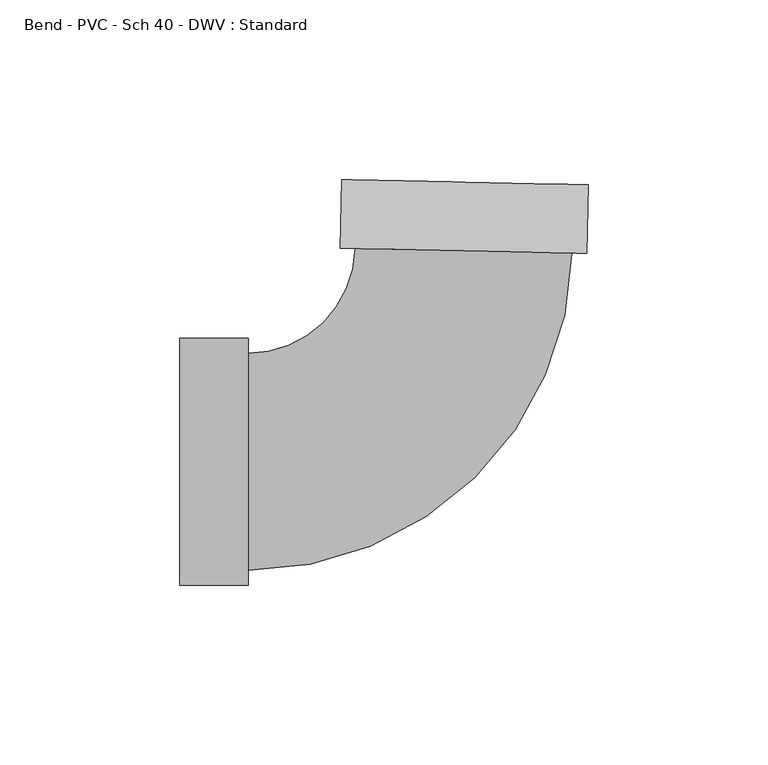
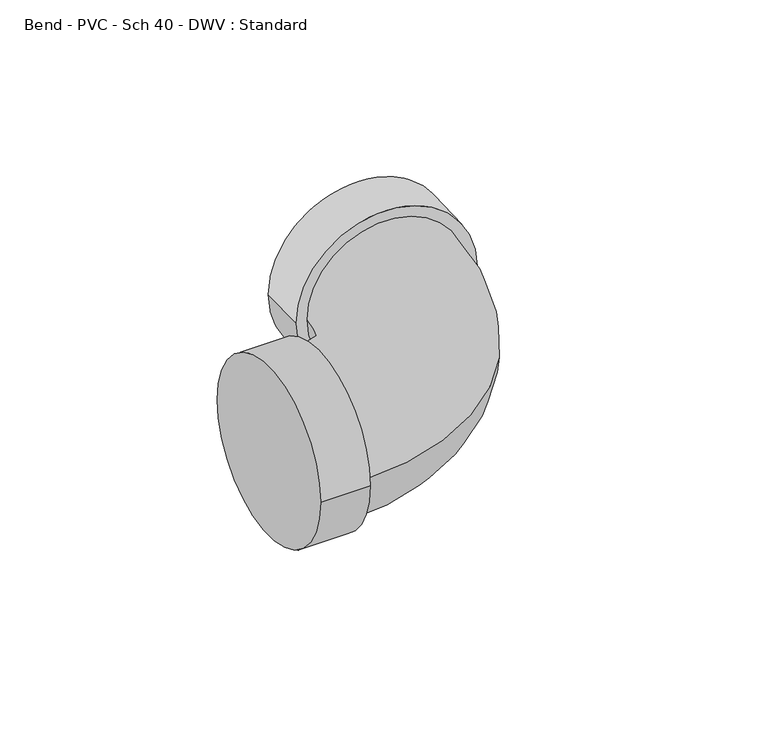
"""IFC4 building model written with IfcOpenShell, lengths in millimetres: pipe fitting geometry, Bend - PVC - Sch 40 - DWV : Standard."""

from ifc_helpers import new_model, si_unit, point, frame, origin, place, context, project, spatial, circle_curve, ellipse_curve, trimmed, source, transform, mapped, element, save
from ifc_brep_helpers import plane_surface, cylinder_surface, revolved_surface, advanced_brep


def bend_pvc_sch_40_dwv_standard_422c3456(model_context):
    return source(origin(), model_context, "Body", "AdvancedBrep", [
        advanced_brep(
        [(-77.8002, -34.3154, 0.0), (-77.8002, 34.3154, 0.0), (-58.7502, -34.3154, 0.0), (-58.7502, 34.3154, 0.0), (-58.7502, -30.1625, 0.0), (-58.7502, 30.1625, 0.0), (-28.90878, 59.3771407, 0.0), (31.4026312, 58.0967913, 0.0), (35.5545958, 58.0086493, 0.0), (-33.0607446, 59.4652827, 0.0), (35.9589167, 77.0543582, 0.0), (-32.6564237, 78.5109915, 0.0)],
        [
            (0, 1, circle_curve(frame((-77.8002, 0.0, 0.0), z_axis=(-1.0, 0.0, 0.0), x_axis=(0.0, 1.0, 0.0)), 34.3154)),
            (1, 0, circle_curve(frame((-77.8002, 0.0, 0.0), z_axis=(-1.0, 0.0, 0.0), x_axis=(0.0, 1.0, 0.0)), 34.3154)),
            (2, 3, circle_curve(frame((-58.7502, 0.0, 0.0), z_axis=(1.0, 0.0, 0.0), x_axis=(0.0, 1.0, 0.0)), 34.3154)),
            (3, 2, circle_curve(frame((-58.7502, 0.0, 0.0), z_axis=(1.0, 0.0, 0.0), x_axis=(0.0, 1.0, 0.0)), 34.3154)),
            (4, 5, circle_curve(frame((-58.7502, 0.0, 0.0), z_axis=(-1.0, 0.0, 0.0), x_axis=(0.0, 1.0, 0.0)), 30.1625)),
            (5, 4, circle_curve(frame((-58.7502, 0.0, 0.0), z_axis=(-1.0, 0.0, 0.0), x_axis=(0.0, 1.0, 0.0)), 30.1625)),
            (0, 2),
            (3, 1),
            (6, 5, circle_curve(frame((-58.7502, 60.0106435, 0.0), z_axis=(0.0, 0.0, -1.0), x_axis=(0.0, -1.0, 0.0)), 29.8481435)),
            (4, 7, circle_curve(frame((-58.7502, 60.0106435, 0.0), z_axis=(0.0, 0.0, 1.0), x_axis=(0.0, -1.0, 0.0)), 90.1731435)),
            (7, 6, circle_curve(frame((1.2469256, 58.736966, 0.0), z_axis=(-0.02122419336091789, -0.9997747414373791, 0.0), x_axis=(-0.9997747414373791, 0.02122419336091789, 0.0)), 30.1625)),
            (6, 7, circle_curve(frame((1.2469256, 58.736966, 0.0), z_axis=(-0.02122419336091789, -0.9997747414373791, 0.0), x_axis=(-0.9997747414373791, 0.02122419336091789, 0.0)), 30.1625)),
            (8, 9, circle_curve(frame((1.2469256, 58.736966, 0.0), z_axis=(-0.02122419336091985, -0.9997747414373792, 0.0), x_axis=(-0.9997747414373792, 0.02122419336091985, 0.0)), 34.3154)),
            (9, 8, circle_curve(frame((1.2469256, 58.736966, 0.0), z_axis=(-0.02122419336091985, -0.9997747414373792, 0.0), x_axis=(-0.9997747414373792, 0.02122419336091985, 0.0)), 34.3154)),
            (10, 11, circle_curve(frame((1.6512465, 77.7826748, 0.0), z_axis=(0.02122419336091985, 0.9997747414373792, 0.0), x_axis=(-0.9997747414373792, 0.02122419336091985, 0.0)), 34.3154)),
            (11, 10, circle_curve(frame((1.6512465, 77.7826748, 0.0), z_axis=(0.02122419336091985, 0.9997747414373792, 0.0), x_axis=(-0.9997747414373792, 0.02122419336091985, 0.0)), 34.3154)),
            (8, 10),
            (11, 9),
        ],
        [
            plane_surface(frame((-77.8002, 0.0, 0.0), z_axis=(-1.0, 0.0, 0.0), x_axis=(0.0, 0.0, 1.0))),
            plane_surface(frame((-58.7502, 0.0, 0.0), z_axis=(1.0, 0.0, 0.0), x_axis=(0.0, 0.0, 1.0))),
            cylinder_surface(frame((-77.8002, 0.0, 0.0), z_axis=(-1.0, 0.0, 0.0), x_axis=(0.0, 1.0, 0.0)), 34.3154),
            revolved_surface(trimmed(ellipse_curve(frame((-58.7502, 0.0, 0.0), z_axis=(-1.0, 0.0, 0.0), x_axis=(0.0, 1.0, 0.0)), 30.1625, 30.1625), [point((-58.7502, -30.1625, 0.0))], [point((-58.7502, 30.1625, 0.0))], True, "CARTESIAN"), (-58.7502, 60.0106435, 0.0), (0.0, 0.0, 1.0)),
            revolved_surface(trimmed(ellipse_curve(frame((-58.7502, 0.0, 0.0), z_axis=(-1.0, 0.0, 0.0), x_axis=(0.0, 1.0, 0.0)), 30.1625, 30.1625), [point((-58.7502, 30.1625, 0.0))], [point((-58.7502, -30.1625, 0.0))], True, "CARTESIAN"), (-58.7502, 60.0106435, 0.0), (0.0, 0.0, 1.0)),
            plane_surface(frame((1.2469256, 58.736966, 0.0), z_axis=(-0.02122419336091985, -0.9997747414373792, 0.0), x_axis=(0.0, 0.0, 1.0))),
            plane_surface(frame((1.6512465, 77.7826748, 0.0), z_axis=(0.02122419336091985, 0.9997747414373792, 0.0), x_axis=(0.0, 0.0, 1.0))),
            cylinder_surface(frame((1.2469256, 58.736966, 0.0), z_axis=(-0.02122419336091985, -0.9997747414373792, 0.0), x_axis=(-0.9997747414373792, 0.02122419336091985, 0.0)), 34.3154),
        ],
        [
            (0, [[1, 2]]),
            (1, [[3, 4], [5, 6]]),
            (2, [[-1, 7, -4, 8]]),
            (2, [[-2, -8, -3, -7]]),
            (3, [[9, -5, 10, 11]]),
            (4, [[-9, 12, -10, -6]]),
            (5, [[13, 14], [-11, -12]]),
            (6, [[15, 16]]),
            (7, [[-13, 17, -16, 18]]),
            (7, [[-14, -18, -15, -17]]),
        ],
    ),
    ])


if __name__ == "__main__":
    model = new_model("IFC4")
    model_context = context("Model", 3, world=origin())
    ifc_project = project(units=[si_unit("LENGTHUNIT", "METRE", prefix="MILLI")], contexts=[model_context])
    site = spatial("IfcSite", under=ifc_project)
    building = spatial("IfcBuilding", under=site)
    placement = place(None, origin())
    bend_pvc_sch_40_dwv_standard_shape = bend_pvc_sch_40_dwv_standard_422c3456(model_context)
    element("IfcPipeFitting", 1, ObjectType="Bend - PVC - Sch 40 - DWV : Standard", at=placement, inside=building, context=model_context, shape_type="MappedRepresentation", body=[
        mapped(bend_pvc_sch_40_dwv_standard_shape, transform((0.0, 0.0, 0.0), x_axis=(1.0, 0.0, 0.0), y_axis=(0.0, 1.0, 0.0), z_axis=(0.0, 0.0, 1.0))),
    ])
    save(model, "model.ifc")
